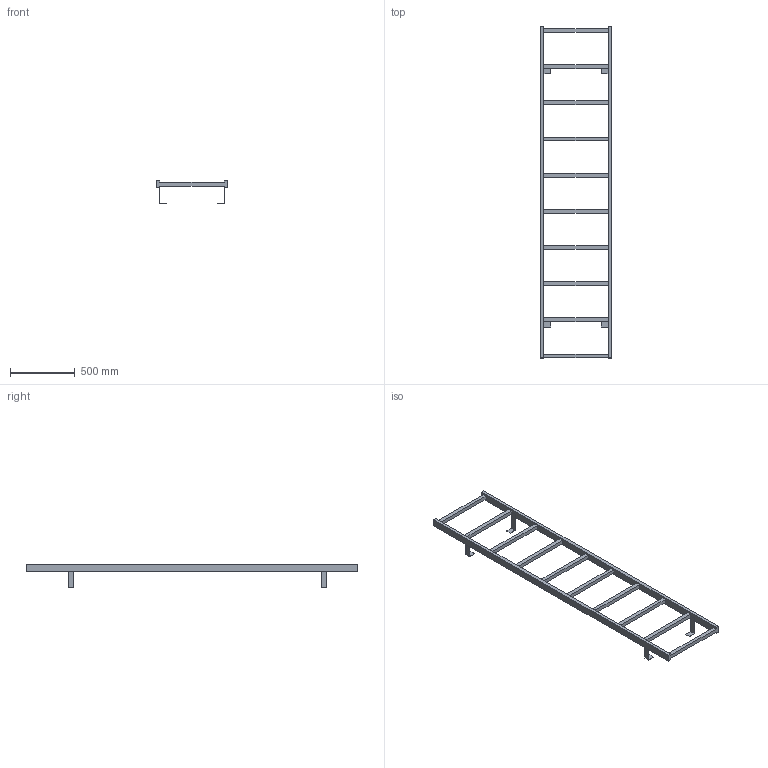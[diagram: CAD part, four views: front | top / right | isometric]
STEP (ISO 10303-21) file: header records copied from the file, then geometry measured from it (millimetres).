
FILE_DESCRIPTION((''),'2;1');
FILE_NAME('52311188','2024-10-17T13:45:18',('wep'),('HUBER SE'),'CREO PARAMETRIC BY PTC INC, 2022162','CREO PARAMETRIC BY PTC INC, 2022162','');
FILE_SCHEMA(('AUTOMOTIVE_DESIGN { 1 0 10303 214 1 1 1 1 }'));
Length unit declared in the file: millimetre
Products named in the file (1): 52311188
Bounding box: 550 x 2570 x 178.5 mm (x, y, z)
Volume: 11889460 mm3; surface area: 1490148 mm2
Topology: 1 solids, 1 shells, 82 faces, 240 edges, 156 vertices
Faces by surface type: plane 82
Entity records: 3253 total; most frequent: CARTESIAN_POINT 480, ORIENTED_EDGE 480, DIRECTION 404, VECTOR 240, LINE 240, EDGE_CURVE 240, VERTEX_POINT 156, COLOUR_RGB 106
